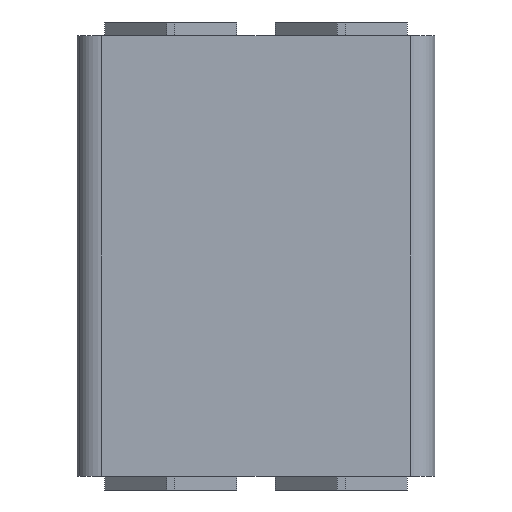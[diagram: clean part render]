
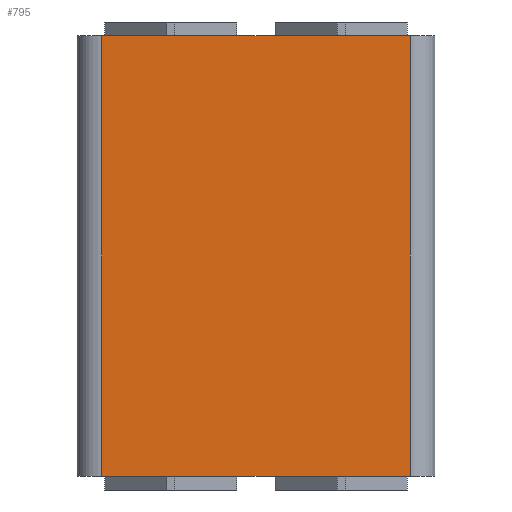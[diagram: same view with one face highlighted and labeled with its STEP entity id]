
A CAD part, front view. The second image highlights one B-rep face of the part: STEP entity #795.
In plain terms, the highlighted planar face has unit normal (0, -1, 0).
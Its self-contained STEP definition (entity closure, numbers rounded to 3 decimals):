
#737=CARTESIAN_POINT('',(28.,-17.0,80.0));
#738=VERTEX_POINT('',#737);
#746=CARTESIAN_POINT('',(28.,-17.0,0.0));
#747=VERTEX_POINT('',#746);
#748=CARTESIAN_POINT('',(28.,-17.0,0.0));
#749=DIRECTION('',(0.0,0.0,1.0));
#750=VECTOR('',#749,80.0);
#751=LINE('',#748,#750);
#752=EDGE_CURVE('',#747,#738,#751,.T.);
#765=CARTESIAN_POINT('',(28.,-17.0,0.0));
#766=DIRECTION('',(0.0,-1.0,0.0));
#767=DIRECTION('',(0.0,0.0,-1.0));
#768=AXIS2_PLACEMENT_3D('',#765,#766,#767);
#769=PLANE('',#768);
#770=CARTESIAN_POINT('',(-28.,-17.0,80.0));
#771=VERTEX_POINT('',#770);
#772=CARTESIAN_POINT('',(28.,-17.0,80.0));
#773=DIRECTION('',(-1.0,0.0,0.0));
#774=VECTOR('',#773,56.);
#775=LINE('',#772,#774);
#776=EDGE_CURVE('',#738,#771,#775,.T.);
#777=ORIENTED_EDGE('',*,*,#776,.T.);
#778=CARTESIAN_POINT('',(-28.,-17.0,0.0));
#779=VERTEX_POINT('',#778);
#780=CARTESIAN_POINT('',(-28.,-17.0,0.0));
#781=DIRECTION('',(0.0,0.0,1.0));
#782=VECTOR('',#781,80.0);
#783=LINE('',#780,#782);
#784=EDGE_CURVE('',#779,#771,#783,.T.);
#785=ORIENTED_EDGE('',*,*,#784,.F.);
#786=CARTESIAN_POINT('',(-28.,-17.0,0.0));
#787=DIRECTION('',(1.0,0.0,0.0));
#788=VECTOR('',#787,56.);
#789=LINE('',#786,#788);
#790=EDGE_CURVE('',#779,#747,#789,.T.);
#791=ORIENTED_EDGE('',*,*,#790,.T.);
#792=ORIENTED_EDGE('',*,*,#752,.T.);
#793=EDGE_LOOP('',(#777,#785,#791,#792));
#794=FACE_OUTER_BOUND('',#793,.T.);
#795=ADVANCED_FACE('',(#794),#769,.T.);
